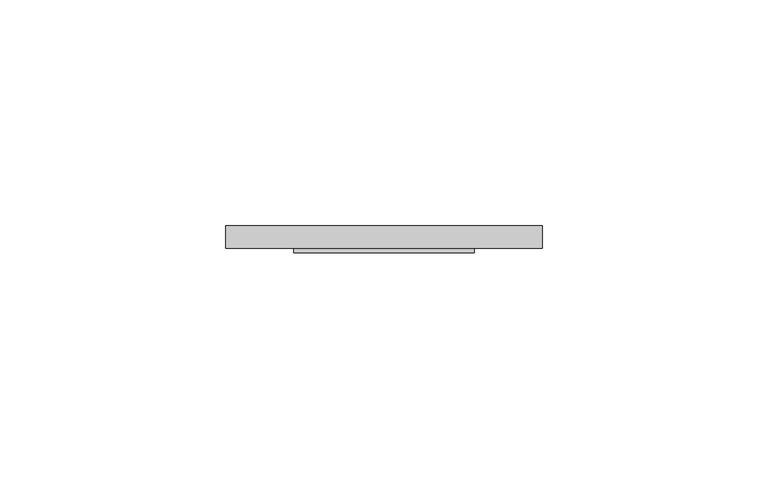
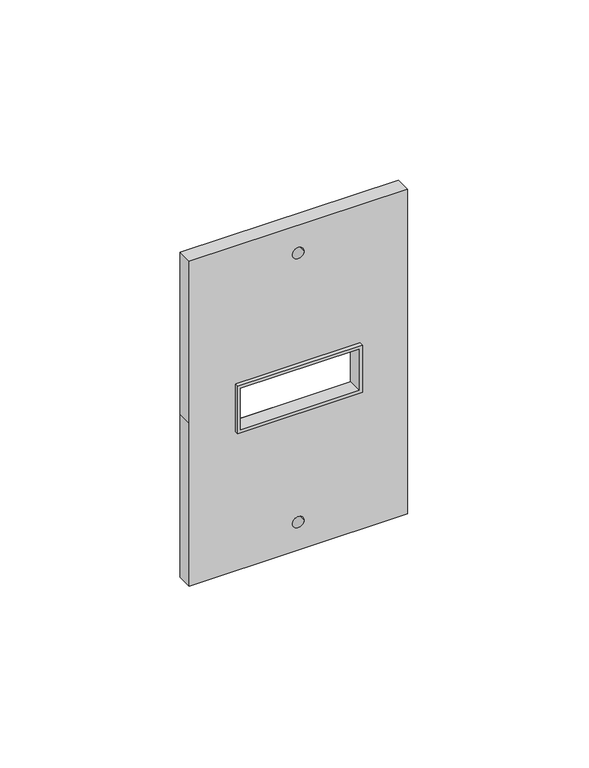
"""IFC4 building model written with IfcOpenShell, lengths in millimetres: light fixture geometry, Apagador escalera simple : Apagador."""

from ifc_helpers import new_model, si_unit, point, frame, frame_2d, origin, place, context, project, spatial, polyline, circle_curve, trimmed, segment, composite_curve, outline, extrude, source, transform, mapped, element, save


def light_fixture_9ea27b40(model_context):
    return source(origin(), model_context, "Body", "SweptSolid", [
        extrude(outline(polyline([(1092.0, 145.0), (1108.0, 145.0), (1108.0, 105.0), (1092.0, 105.0), (1092.0, 145.0)]), holes=[polyline([(1107.0, 106.0), (1107.0, 144.0), (1093.0, 144.0), (1093.0, 106.0), (1107.0, 106.0)])]), frame((0.0, -75.9684395, 0.0), z_axis=(0.0, 1.0, 0.0), x_axis=(0.0, 0.0, 1.0)), (0.0, 0.0, 1.0), 4.7658788),
        extrude(outline(polyline([(1155.0, 160.0), (1155.0, 90.0), (1100.0, 90.0), (1045.0, 90.0), (1045.0, 160.0), (1155.0, 160.0)]), holes=[composite_curve([segment(trimmed(circle_curve(frame_2d((1145.5814465, 125.0)), 1.8475425), [point((1145.5814465, 123.1524575))], [point((1145.5814465, 126.8475425))], True, "CARTESIAN"), True, "CONTINUOUS"), segment(trimmed(circle_curve(frame_2d((1145.5814465, 125.0)), 1.8475425), [point((1145.5814465, 126.8475425))], [point((1145.5814465, 123.1524575))], True, "CARTESIAN"), True, "CONTINUOUS")], self_intersect=False), composite_curve([segment(trimmed(circle_curve(frame_2d((1054.4185535, 125.0)), 1.8475425), [point((1054.4185535, 123.1524575))], [point((1054.4185535, 126.8475425))], True, "CARTESIAN"), True, "CONTINUOUS"), segment(trimmed(circle_curve(frame_2d((1054.4185535, 125.0)), 1.8475425), [point((1054.4185535, 126.8475425))], [point((1054.4185535, 123.1524575))], True, "CARTESIAN"), True, "CONTINUOUS")], self_intersect=False), polyline([(1108.0, 105.0), (1108.0, 145.0), (1092.0, 145.0), (1092.0, 105.0), (1108.0, 105.0)])]), frame((0.0, -75.0, 0.0), z_axis=(0.0, 1.0, 0.0), x_axis=(0.0, 0.0, 1.0)), (0.0, 0.0, 1.0), 5.0),
    ])


if __name__ == "__main__":
    model = new_model("IFC4")
    model_context = context("Model", 3, world=origin())
    ifc_project = project(units=[si_unit("LENGTHUNIT", "METRE", prefix="MILLI")], contexts=[model_context])
    site = spatial("IfcSite", under=ifc_project)
    building = spatial("IfcBuilding", under=site)
    placement = place(None, origin())
    light_fixture_shape = light_fixture_9ea27b40(model_context)
    element("IfcLightFixture", 1, ObjectType="Apagador escalera simple : Apagador", at=placement, inside=building, context=model_context, shape_type="MappedRepresentation", body=[
        mapped(light_fixture_shape, transform((0.0, 0.0, 0.0), x_axis=(1.0, 0.0, 0.0), y_axis=(0.0, 1.0, 0.0), z_axis=(0.0, 0.0, 1.0))),
    ])
    save(model, "model.ifc")
